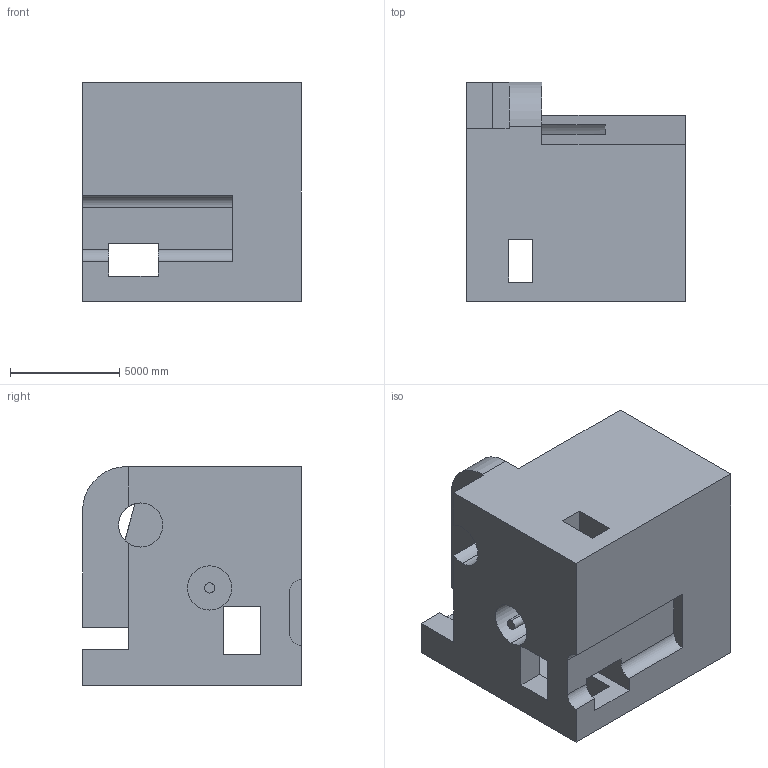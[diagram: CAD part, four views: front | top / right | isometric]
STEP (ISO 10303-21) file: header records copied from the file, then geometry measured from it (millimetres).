
FILE_DESCRIPTION (( 'STEP AP203' ), '1' );
FILE_NAME ('164.STEP', '2022-08-31T12:04:22', ( 'user' ), ( '' ), 'SwSTEP 2.0', 'SolidWorks 2021', '' );
FILE_SCHEMA (( 'CONFIG_CONTROL_DESIGN' ));
Length unit declared in the file: centimetre
Products named in the file (1): 164
Bounding box: 10000 x 10000 x 10000 mm (x, y, z)
Volume: 686212247274.4 mm3; surface area: 798978827.1 mm2
Topology: 1 solids, 1 shells, 49 faces, 156 edges, 104 vertices
Faces by surface type: plane 39, cylinder 10
Entity records: 1815 total; most frequent: ORIENTED_EDGE 312, CARTESIAN_POINT 310, DIRECTION 280, EDGE_CURVE 156, VECTOR 132, LINE 132, VERTEX_POINT 104, AXIS2_PLACEMENT_3D 74
